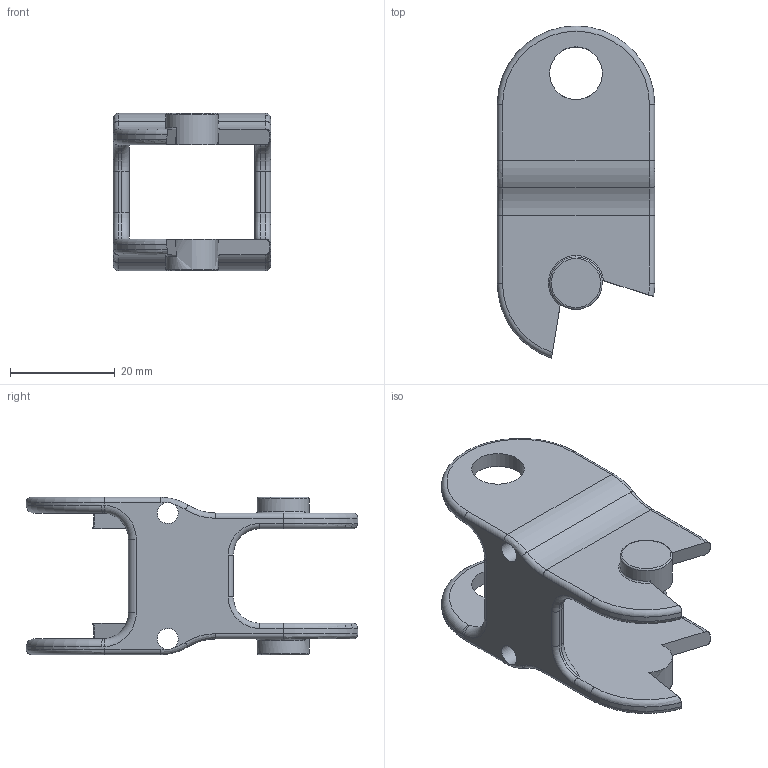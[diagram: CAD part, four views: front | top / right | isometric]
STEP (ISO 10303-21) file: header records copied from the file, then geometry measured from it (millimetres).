
FILE_DESCRIPTION((''),'2;1');
FILE_NAME('C:\Uebbing\PARAMETERKETTEN\KOLIBRI\Kol_30_030_3\Kol_30_030_3.stp','2011-11-02T11:28:29',('Uebbing'),(''),'Autodesk Inventor 10','Autodesk Inventor 10','');
FILE_SCHEMA(('AUTOMOTIVE_DESIGN { 1 0 10303 214 1 1 1 1 }'));
Length unit declared in the file: millimetre
Products named in the file (1): Kol_30_030_3
Bounding box: 30 x 63.23 x 30 mm (x, y, z)
Volume: 12671.2 mm3; surface area: 9536.1 mm2
Topology: 1 solids, 1 shells, 117 faces, 323 edges, 202 vertices
Faces by surface type: bspline 41, cylinder 29, torus 26, plane 21
Full cylindrical faces by diameter (mm): 9.95 x1, 10.05 x1
Entity records: 5550 total; most frequent: CARTESIAN_POINT 2729, ORIENTED_EDGE 616, DIRECTION 568, EDGE_CURVE 308, AXIS2_PLACEMENT_3D 234, VERTEX_POINT 196, CIRCLE 146, EDGE_LOOP 128
